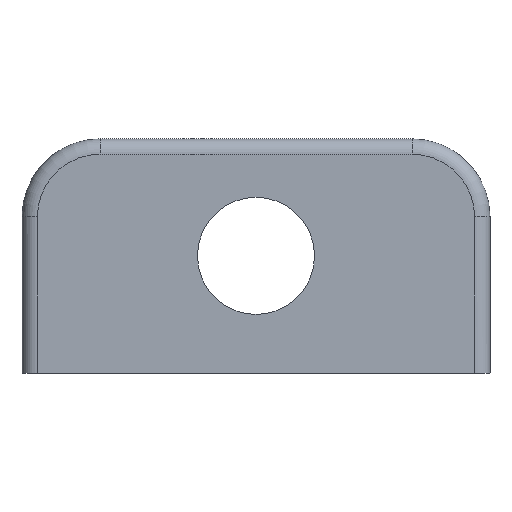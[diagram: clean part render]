
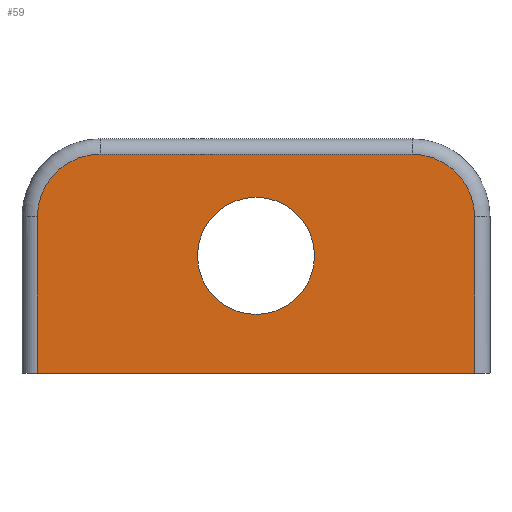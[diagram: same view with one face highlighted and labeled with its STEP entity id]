
A CAD part, front view. The second image highlights one B-rep face of the part: STEP entity #59.
In plain terms, the highlighted planar face has unit normal (0, -1, 0).
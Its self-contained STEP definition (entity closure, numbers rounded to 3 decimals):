
#59 = ADVANCED_FACE( '', ( #124, #125 ), #126, .T. );
#124 = FACE_OUTER_BOUND( '', #191, .T. );
#125 = FACE_BOUND( '', #192, .T. );
#126 = PLANE( '', #193 );
#191 = EDGE_LOOP( '', ( #291, #292, #293, #294, #295, #296 ) );
#192 = EDGE_LOOP( '', ( #297 ) );
#193 = AXIS2_PLACEMENT_3D( '', #298, #299, #300 );
#291 = ORIENTED_EDGE( '', *, *, #422, .F. );
#292 = ORIENTED_EDGE( '', *, *, #423, .T. );
#293 = ORIENTED_EDGE( '', *, *, #389, .T. );
#294 = ORIENTED_EDGE( '', *, *, #410, .T. );
#295 = ORIENTED_EDGE( '', *, *, #414, .T. );
#296 = ORIENTED_EDGE( '', *, *, #424, .T. );
#297 = ORIENTED_EDGE( '', *, *, #420, .F. );
#298 = CARTESIAN_POINT( '', ( 76.2, -12.7, -3.8 ) );
#299 = DIRECTION( '', ( 0., -1., 0. ) );
#300 = DIRECTION( '', ( 0., 0., -1. ) );
#389 = EDGE_CURVE( '', #447, #452, #454, .T. );
#410 = EDGE_CURVE( '', #452, #486, #488, .T. );
#414 = EDGE_CURVE( '', #486, #492, #494, .T. );
#420 = EDGE_CURVE( '', #501, #501, #502, .T. );
#422 = EDGE_CURVE( '', #504, #505, #506, .T. );
#423 = EDGE_CURVE( '', #504, #447, #507, .T. );
#424 = EDGE_CURVE( '', #492, #505, #508, .T. );
#447 = VERTEX_POINT( '', #534 );
#452 = VERTEX_POINT( '', #539 );
#454 = CIRCLE( '', #541, 20.4 );
#486 = VERTEX_POINT( '', #581 );
#488 = LINE( '', #583, #584 );
#492 = VERTEX_POINT( '', #588 );
#494 = CIRCLE( '', #590, 20.4 );
#501 = VERTEX_POINT( '', #600 );
#502 = CIRCLE( '', #601, 19.05 );
#504 = VERTEX_POINT( '', #603 );
#505 = VERTEX_POINT( '', #604 );
#506 = LINE( '', #605, #606 );
#507 = LINE( '', #607, #608 );
#508 = LINE( '', #609, #610 );
#534 = CARTESIAN_POINT( '', ( 71.2, -12.7, 50.8 ) );
#539 = CARTESIAN_POINT( '', ( 50.8, -12.7, 71.2 ) );
#541 = AXIS2_PLACEMENT_3D( '', #723, #724, #725 );
#581 = CARTESIAN_POINT( '', ( -50.8, -12.7, 71.2 ) );
#583 = CARTESIAN_POINT( '', ( -50.8, -12.7, 71.2 ) );
#584 = VECTOR( '', #758, 1000. );
#588 = CARTESIAN_POINT( '', ( -71.2, -12.7, 50.8 ) );
#590 = AXIS2_PLACEMENT_3D( '', #765, #766, #767 );
#600 = CARTESIAN_POINT( '', ( 19.05, -12.7, 38.1 ) );
#601 = AXIS2_PLACEMENT_3D( '', #771, #772, #773 );
#603 = CARTESIAN_POINT( '', ( 71.2, -12.7, -0.092 ) );
#604 = CARTESIAN_POINT( '', ( -71.2, -12.7, -0.092 ) );
#605 = CARTESIAN_POINT( '', ( 76.2, -12.7, -0.092 ) );
#606 = VECTOR( '', #774, 1000. );
#607 = CARTESIAN_POINT( '', ( 71.2, -12.7, 50.8 ) );
#608 = VECTOR( '', #775, 1000. );
#609 = CARTESIAN_POINT( '', ( -71.2, -12.7, -3.8 ) );
#610 = VECTOR( '', #776, 1000. );
#723 = CARTESIAN_POINT( '', ( 50.8, -12.7, 50.8 ) );
#724 = DIRECTION( '', ( 0., -1., 0. ) );
#725 = DIRECTION( '', ( 0., 0., -1. ) );
#758 = DIRECTION( '', ( -1., 0., 0. ) );
#765 = CARTESIAN_POINT( '', ( -50.8, -12.7, 50.8 ) );
#766 = DIRECTION( '', ( 0., -1., 0. ) );
#767 = DIRECTION( '', ( 0., 0., -1. ) );
#771 = CARTESIAN_POINT( '', ( 0., -12.7, 38.1 ) );
#772 = DIRECTION( '', ( 0., -1., 0. ) );
#773 = DIRECTION( '', ( 1., 0., 0. ) );
#774 = DIRECTION( '', ( -1., 0., 0. ) );
#775 = DIRECTION( '', ( 0., 0., 1. ) );
#776 = DIRECTION( '', ( 0., 0., -1. ) );
